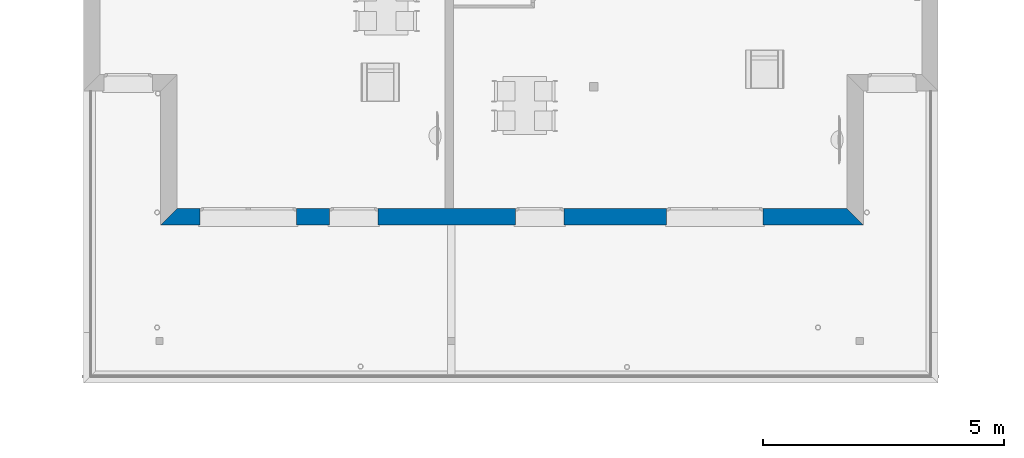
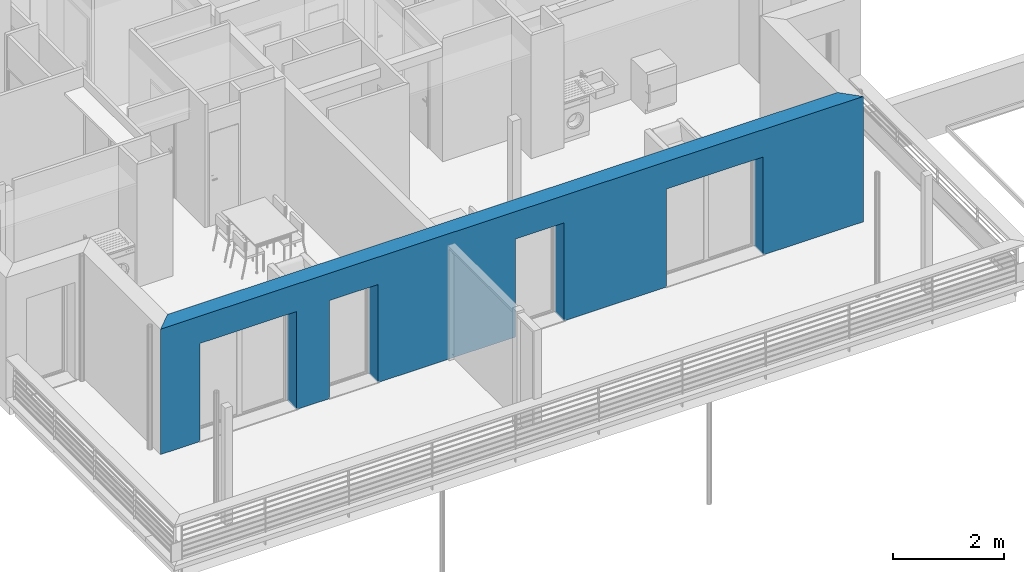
# One storey, part 22 of 171: 1 wall, 4 openings.
"""IFC2X3 building model written with IfcOpenShell, lengths in millimetres."""

import ifcopenshell
import ifcopenshell.guid

model = None  # the IFC model being written
_history = None  # IfcOwnerHistory: only IFC2X3 demands one
_inside = {}  # id of a spatial element -> (the spatial element, [elements in it])
_under = {}  # id of a project, library or spatial element -> (it, [spatial elements below it])
_declared = {}  # id of a project -> (the project, [libraries it declares])
_typed = {}  # id of a type object -> (the type object, [elements of that type])
_made_of = {}  # id of a material, layer set ... -> (it, [elements and type objects made of it])


def new_model(schema):
    """Start an empty IFC model of exactly this schema.

    Asked for "IFC4X3", IfcOpenShell would pick the latest addendum, in which some entities
    have other attributes; the version numbers below select the first issue.
    IFC2X3 requires an IfcOwnerHistory on every rooted entity: one is made here for all.
    """
    global model, _history
    if schema == "IFC4X3":
        model = ifcopenshell.file(schema_version=(4, 3, 0, 0))
    else:
        model = ifcopenshell.file(schema=schema)
    _inside.clear()
    _under.clear()
    _declared.clear()
    _typed.clear()
    _made_of.clear()
    _history = None
    if model.schema == "IFC2X3":
        org = make("IfcOrganization", Name="unknown")
        user = make(
            "IfcPersonAndOrganization",
            ThePerson=make("IfcPerson", FamilyName="unknown"),
            TheOrganization=org,
        )
        app = make(
            "IfcApplication",
            ApplicationDeveloper=org,
            Version="unknown",
            ApplicationFullName="unknown",
            ApplicationIdentifier="unknown",
        )
        _history = make(
            "IfcOwnerHistory",
            OwningUser=user,
            OwningApplication=app,
            ChangeAction="ADDED",
            CreationDate=0,
        )
    return model


def make(cls, **values):
    """One entity of the class cls with the attributes given. An attribute that is None is left unset."""
    return model.create_entity(
        cls, **{name: value for name, value in values.items() if value is not None}
    )


def entity(cls, *values):
    """Any entity or typed value of the class cls, its attributes in the order of the schema. None: left unset."""
    e = model.create_entity(cls)
    for i, value in enumerate(values):
        if value is not None:
            e[i] = value
    return e


def rooted(cls, **values):
    """An entity with a GlobalId (a new one), such as an element, a storey or a relation."""
    return make(cls, GlobalId=ifcopenshell.guid.new(), OwnerHistory=_history, **values)


def si_unit(unit_type, name, prefix=None):
    """IfcSIUnit, for example si_unit("LENGTHUNIT", "METRE", prefix="MILLI")."""
    return make("IfcSIUnit", UnitType=unit_type, Prefix=prefix, Name=name)


def converted_unit(unit_type, name, factor, base, dimensions=None, offset=None):
    """IfcConversionBasedUnit, such as the inch: factor (a typed value) times the base unit."""
    return make(
        "IfcConversionBasedUnit"
        if offset is None
        else "IfcConversionBasedUnitWithOffset",
        ConversionOffset=offset,
        Dimensions=None
        if dimensions is None
        else entity("IfcDimensionalExponents", *dimensions),
        UnitType=unit_type,
        Name=name,
        ConversionFactor=make(
            "IfcMeasureWithUnit", ValueComponent=factor, UnitComponent=base
        ),
    )


def derived_unit(unit_type, elements):
    """IfcDerivedUnit: a product of units, each with its exponent."""
    return make(
        "IfcDerivedUnit",
        Elements=[
            make("IfcDerivedUnitElement", Unit=unit, Exponent=power)
            for unit, power in elements
        ],
        UnitType=unit_type,
    )


def money_unit(currency):
    """IfcMonetaryUnit."""
    return make("IfcMonetaryUnit", Currency=currency)


def assignment(units):
    """IfcUnitAssignment: the units of a project."""
    return None if units is None else make("IfcUnitAssignment", Units=units)


def point(xyz):
    """IfcCartesianPoint."""
    return None if xyz is None else make("IfcCartesianPoint", Coordinates=xyz)


def direction(xyz):
    """IfcDirection."""
    return None if xyz is None else make("IfcDirection", DirectionRatios=xyz)


def frame(location, z_axis=None, x_axis=None):
    """IfcAxis2Placement3D, a coordinate frame: its origin and axes. An axis left out is left unset."""
    return make(
        "IfcAxis2Placement3D",
        Location=point(location),
        Axis=direction(z_axis),
        RefDirection=direction(x_axis),
    )


def origin_with_axes():
    """The frame at (0, 0, 0) with the z axis (0, 0, 1) and the x axis (1, 0, 0) written out."""
    return frame((0.0, 0.0, 0.0), z_axis=(0.0, 0.0, 1.0), x_axis=(1.0, 0.0, 0.0))


def place(relative_to, where):
    """IfcLocalPlacement: puts the frame where relative to a parent placement (None: the world)."""
    return make(
        "IfcLocalPlacement", PlacementRelTo=relative_to, RelativePlacement=where
    )


def context(
    kind, dimensions, precision=None, world=None, true_north=None, identifier=None
):
    """IfcGeometricRepresentationContext, for example the 3D "Model" context."""
    return make(
        "IfcGeometricRepresentationContext",
        ContextIdentifier=identifier,
        ContextType=kind,
        CoordinateSpaceDimension=dimensions,
        Precision=precision,
        WorldCoordinateSystem=world,
        TrueNorth=true_north,
    )


def subcontext(parent, identifier, kind, view, scale=None):
    """IfcGeometricRepresentationSubContext, for example "Body" below "Model"."""
    return make(
        "IfcGeometricRepresentationSubContext",
        ContextIdentifier=identifier,
        ContextType=kind,
        ParentContext=parent,
        TargetScale=scale,
        TargetView=view,
    )


def project(units=None, contexts=None):
    """IfcProject with its units and contexts."""
    return rooted(
        "IfcProject",
        Name="project",
        RepresentationContexts=contexts,
        UnitsInContext=assignment(units),
    )


def spatial(cls, under=None, at=None, **own):
    """A site, building, storey or space (cls), placed at a placement, below another one or the project."""
    s = rooted(cls, ObjectPlacement=at, **own)
    if under is not None:
        _under.setdefault(under.id(), (under, []))[1].append(s)
    return s


def polyline(points):
    """IfcPolyline through the points."""
    return make("IfcPolyline", Points=[point(p) for p in points])


def outline(outer, holes=None, kind="AREA"):
    """IfcArbitraryClosedProfileDef: a profile drawn as a closed curve; with holes, ...WithVoids."""
    if holes is None:
        return make("IfcArbitraryClosedProfileDef", ProfileType=kind, OuterCurve=outer)
    return make(
        "IfcArbitraryProfileDefWithVoids",
        ProfileType=kind,
        OuterCurve=outer,
        InnerCurves=holes,
    )


def extrude(swept, where, along, depth):
    """IfcExtrudedAreaSolid: the profile swept, set in the frame where, extruded along a direction by depth."""
    return make(
        "IfcExtrudedAreaSolid",
        SweptArea=swept,
        Position=where,
        ExtrudedDirection=direction(along),
        Depth=depth,
    )


def faces_of(points, faces, orient=None, outer=None):
    """IfcFace entities. A face is a list of loops; a loop is a list of indices into points, from 0.

    orient and outer hold one flag for each loop. By default every Orientation is true, the
    first loop of a face is its IfcFaceOuterBound and the others are IfcFaceBound.
    """
    made = []
    for i, loops in enumerate(faces):
        bounds = []
        for j, loop in enumerate(loops):
            is_outer = j == 0 if outer is None else outer[i][j]
            bounds.append(
                make(
                    "IfcFaceOuterBound" if is_outer else "IfcFaceBound",
                    Bound=make("IfcPolyLoop", Polygon=[points[k] for k in loop]),
                    Orientation=True if orient is None else orient[i][j],
                )
            )
        made.append(make("IfcFace", Bounds=bounds))
    return made


def faceted_brep(points, faces, orient=None, outer=None, voids=None):
    """IfcFacetedBrep: a solid bounded by flat faces; with voids (closed shells), ...WithVoids."""
    shared = [point(p) for p in points]
    hull = make("IfcClosedShell", CfsFaces=faces_of(shared, faces, orient, outer))
    if voids is None:
        return make("IfcFacetedBrep", Outer=hull)
    return make(
        "IfcFacetedBrepWithVoids",
        Outer=hull,
        Voids=[
            make(cls, CfsFaces=faces_of(shared, fs, o, b)) for cls, fs, o, b in voids
        ],
    )


def shape(context_of_items, identifier, shape_type, items):
    """IfcShapeRepresentation: the items that make up one representation, for example the "Body"."""
    return make(
        "IfcShapeRepresentation",
        ContextOfItems=context_of_items,
        RepresentationIdentifier=identifier,
        RepresentationType=shape_type,
        Items=items,
    )


def material(Name=None, Category=None):
    """IfcMaterial."""
    return make("IfcMaterial", Name=Name, Category=Category)


def layer(
    of_material, thickness, ventilated=None, Name=None, Category=None, Priority=None
):
    """IfcMaterialLayer: one layer of a wall or slab, of a material (None: an air gap)."""
    return make(
        "IfcMaterialLayer",
        Material=of_material,
        LayerThickness=thickness,
        IsVentilated=ventilated,
        Name=Name,
        Category=Category,
        Priority=Priority,
    )


def layer_set(layers, Name=None):
    """IfcMaterialLayerSet."""
    return make("IfcMaterialLayerSet", MaterialLayers=layers, LayerSetName=Name)


def layer_usage(for_layer_set, set_direction, sense, offset, extent=None):
    """IfcMaterialLayerSetUsage: how a layer set lies in its element."""
    return make(
        "IfcMaterialLayerSetUsage",
        ForLayerSet=for_layer_set,
        LayerSetDirection=set_direction,
        DirectionSense=sense,
        OffsetFromReferenceLine=offset,
        ReferenceExtent=extent,
    )


def made_of(thing, what):
    """Note that an element or type object is made of a material, layer set ...; save() writes the relation."""
    if what is not None:
        _made_of.setdefault(what.id(), (what, []))[1].append(thing)
    return thing


def type_object(cls, material=None, **own):
    """A type object (cls), such as IfcWallType, which elements share."""
    return made_of(rooted(cls, **own), material)


def element(
    cls,
    number,
    at=None,
    inside=None,
    cuts=None,
    type_object=None,
    material=None,
    context=None,
    identifier="Body",
    shape_type=None,
    held_by="IfcProductDefinitionShape",
    body=None,
    shapes=None,
    **own,
):
    """One element of the class cls, such as IfcWall. Its Tag is "e" and its number.

    at: its placement. inside: the storey or other place that contains it. cuts: it is an
    opening in that element (IfcRelVoidsElement). A single representation is given by context,
    identifier, shape_type and body (its items); several are given by shapes. held_by: the class
    of the entity that holds the representations. save() writes the other relations.
    """
    e = rooted(cls, Tag="e%d" % number, ObjectPlacement=at, **own)
    if body is not None:
        shapes = [shape(context, identifier, shape_type, body)]
    if shapes is not None:
        e.Representation = make(held_by, Representations=shapes)
    if inside is not None:
        _inside.setdefault(inside.id(), (inside, []))[1].append(e)
    if cuts is not None:
        rooted(
            "IfcRelVoidsElement", RelatingBuildingElement=cuts, RelatedOpeningElement=e
        )
    if type_object is not None:
        _typed.setdefault(type_object.id(), (type_object, []))[1].append(e)
    return made_of(e, material)


def aggregate(whole, parts):
    """IfcRelAggregates: a whole, such as a stair, and the parts it consists of."""
    return rooted("IfcRelAggregates", RelatingObject=whole, RelatedObjects=parts)


def save(model, path):
    """Write the relations noted so far, then the file.

    IfcRelAggregates (storeys below a building ...), IfcRelContainedInSpatialStructure (elements
    in a storey), IfcRelDefinesByType, IfcRelAssociatesMaterial and IfcRelDeclares: one each for
    every whole, place, type object, material and project.
    """
    for whole, parts in _under.values():
        aggregate(whole, parts)
    for where, things in _inside.values():
        rooted(
            "IfcRelContainedInSpatialStructure",
            RelatedElements=things,
            RelatingStructure=where,
        )
    for kind, things in _typed.values():
        rooted("IfcRelDefinesByType", RelatedObjects=things, RelatingType=kind)
    for what, things in _made_of.values():
        rooted("IfcRelAssociatesMaterial", RelatedObjects=things, RelatingMaterial=what)
    for by, libraries in _declared.values():
        rooted("IfcRelDeclares", RelatingContext=by, RelatedDefinitions=libraries)
    model.write(path)


model = new_model("IFC2X3")

# Units and contexts
model_context = context("Model", 3, precision=0.01, world=origin_with_axes(), true_north=direction((0.0, 1.0)))
body_context = subcontext(model_context, "Body", "Model", "MODEL_VIEW")
ifc_project = project(units=[si_unit("LENGTHUNIT", "METRE", prefix="MILLI"), si_unit("AREAUNIT", "SQUARE_METRE"), si_unit("VOLUMEUNIT", "CUBIC_METRE"), converted_unit("PLANEANGLEUNIT", "DEGREE", entity("IfcPlaneAngleMeasure", 0.0174532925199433), si_unit("PLANEANGLEUNIT", "RADIAN"), dimensions=[0, 0, 0, 0, 0, 0, 0]), money_unit("USD"), converted_unit("TIMEUNIT", "Year", entity("IfcTimeMeasure", 31557600.0), si_unit("TIMEUNIT", "SECOND"), dimensions=[0, 0, 1, 0, 0, 0, 0]), si_unit("MASSUNIT", "GRAM", prefix="KILO"), si_unit("THERMODYNAMICTEMPERATUREUNIT", "DEGREE_CELSIUS"), si_unit("LUMINOUSINTENSITYUNIT", "LUMEN"), si_unit("ENERGYUNIT", "JOULE", prefix="MEGA"), derived_unit("THERMALCONDUCTANCEUNIT", [(si_unit("POWERUNIT", "WATT"), 1), (si_unit("LENGTHUNIT", "METRE"), -1), (si_unit("THERMODYNAMICTEMPERATUREUNIT", "KELVIN"), -1)]), derived_unit("SPECIFICHEATCAPACITYUNIT", [(si_unit("ENERGYUNIT", "JOULE"), 1), (si_unit("MASSUNIT", "GRAM", prefix="KILO"), -1), (si_unit("THERMODYNAMICTEMPERATUREUNIT", "KELVIN"), -1)]), derived_unit("MASSDENSITYUNIT", [(si_unit("MASSUNIT", "GRAM", prefix="KILO"), 1), (si_unit("VOLUMEUNIT", "CUBIC_METRE"), -1)])], contexts=[model_context])

# Site, building, storey
site_placement = place(None, origin_with_axes())
site = spatial("IfcSite", under=ifc_project, at=site_placement, Name="Site", CompositionType="ELEMENT")
building_placement = place(site_placement, origin_with_axes())
building = spatial("IfcBuilding", under=site, at=building_placement, Name="Bâtiment", CompositionType="ELEMENT")
storey_placement = place(building_placement, frame((0.0, 0.0, 3000.0), z_axis=(0.0, 0.0, 1.0), x_axis=(1.0, 0.0, 0.0)))
storey = spatial("IfcBuildingStorey", under=building, at=storey_placement, Name="rdc", CompositionType="ELEMENT", Elevation=3000.0)

# Wall, openings
ifc_material_1 = material(Name="Parpaing 312445824")
ifc_layer_1 = layer(ifc_material_1, 180.0, ventilated="UNKNOWN")
ifc_material_2 = material(Name="Isolant styromousse 301821074")
ifc_layer_2 = layer(ifc_material_2, 160.0, ventilated="UNKNOWN")
ifc_layer_set = layer_set([ifc_layer_1, ifc_layer_2], Name="isol int 18+16 0018356637")
ifc_layer_usage = layer_usage(ifc_layer_set, "AXIS2", "POSITIVE", 0.0)
wall_type = type_object("IfcWallType", Name="isol int 18+16 0018356637 340", PredefinedType="NOTDEFINED")
wall_placement = place(storey_placement, frame((2218234.233338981, -657818.3230769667, 0.0), z_axis=(0.0, 0.0, 1.0), x_axis=(1.0, 0.0, 0.0)))
wall = element("IfcWallStandardCase", 1, at=wall_placement, inside=storey, type_object=wall_type, material=ifc_layer_usage, Name="Mur-142", context=body_context, shape_type="SweptSolid", body=[
    extrude(outline(polyline([(-1.13686837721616e-10, 0.0), (14572.4247596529, 0.0), (14232.42475965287, 340.0000000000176), (339.9999999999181, 340.0000000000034), (-1.13686837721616e-10, 0.0)])), origin_with_axes(), (0.0, 0.0, 1.0), 2750.0),
])
opening_1_placement = place(wall_placement, frame((11494.55984898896, 0.0, 0.0), z_axis=(0.0, 0.0, 1.0), x_axis=(1.0, 0.0, 0.0)))
element("IfcOpeningElement", 2, at=opening_1_placement, cuts=wall, Name="Fen-207", context=body_context, shape_type="Brep", body=[
    faceted_brep([(-1000.0, 341.0000000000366, 2150.0), (1000.0, 341.0000000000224, 2150.0), (1000.0, 341.0000000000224, 0.0), (-1000.0, 341.0000000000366, 0.0), (-1000.0, 529.9999999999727, 2150.0), (1000.0, 529.9999999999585, 2150.0), (1000.0, 289.9999999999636, 2150.0), (1000.0, 289.9999999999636, 0.0), (1000.0, -1.000000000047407, 0.0), (-1000.0, -1.000000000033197, 0.0), (-1000.0, 289.9999999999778, 0.0), (-1000.0, 289.9999999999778, 2150.0), (-1000.0, 279.9999999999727, 2150.0), (-1000.0, 279.9999999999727, 2400.0), (-1000.0, 529.9999999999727, 2400.0), (1000.0, 529.9999999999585, 2400.0), (1000.0, 279.9999999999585, 2400.0), (1000.0, 279.9999999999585, 2150.0), (1000.0, -1.000000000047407, 2150.0), (-1000.0, -1.000000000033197, 2150.0)], [[[0, 1, 2, 3]], [[1, 0, 4, 5]], [[1, 6, 7, 2]], [[7, 8, 9, 10, 3, 2]], [[11, 0, 3, 10]], [[0, 11, 12, 13, 14, 4]], [[15, 5, 4, 14]], [[6, 1, 5, 15, 16, 17]], [[6, 17, 18, 8, 7]], [[19, 9, 8, 18]], [[12, 11, 10, 9, 19]], [[12, 17, 16, 13]], [[16, 15, 14, 13]], [[17, 12, 19, 18]]]),
])
opening_2_placement = place(wall_placement, frame((1819.125619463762, 0.0, 0.0), z_axis=(0.0, 0.0, 1.0), x_axis=(1.0, 0.0, 0.0)))
element("IfcOpeningElement", 3, at=opening_2_placement, cuts=wall, Name="Fen-207", context=body_context, shape_type="Brep", body=[
    faceted_brep([(-1000.0, 341.000000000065, 2150.0), (1000.0, 341.000000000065, 2150.0), (1000.0, 341.000000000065, 0.0), (-1000.0, 341.000000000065, 0.0), (-1000.0, 530.0000000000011, 2150.0), (1000.0, 530.0000000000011, 2150.0), (1000.0, 290.0000000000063, 2150.0), (1000.0, 290.0000000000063, 0.0), (1000.0, -1.000000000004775, 0.0), (-1000.0, -1.000000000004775, 0.0), (-1000.0, 290.0000000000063, 0.0), (-1000.0, 290.0000000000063, 2150.0), (-1000.0, 280.0000000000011, 2150.0), (-1000.0, 280.0000000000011, 2400.0), (-1000.0, 530.0000000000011, 2400.0), (1000.0, 530.0000000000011, 2400.0), (1000.0, 280.0000000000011, 2400.0), (1000.0, 280.0000000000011, 2150.0), (1000.0, -1.000000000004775, 2150.0), (-1000.0, -1.000000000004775, 2150.0)], [[[0, 1, 2, 3]], [[1, 0, 4, 5]], [[1, 6, 7, 2]], [[7, 8, 9, 10, 3, 2]], [[11, 0, 3, 10]], [[0, 11, 12, 13, 14, 4]], [[4, 14, 15, 5]], [[6, 1, 5, 15, 16, 17]], [[6, 17, 18, 8, 7]], [[19, 9, 8, 18]], [[12, 11, 10, 9, 19]], [[12, 17, 16, 13]], [[14, 13, 16, 15]], [[17, 12, 19, 18]]]),
])
opening_3_placement = place(wall_placement, frame((4005.859536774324, 0.0, 0.0), z_axis=(0.0, 0.0, 1.0), x_axis=(1.0, 0.0, 0.0)))
element("IfcOpeningElement", 4, at=opening_3_placement, cuts=wall, Name="Fen-208", context=body_context, shape_type="Brep", body=[
    faceted_brep([(-500.0, 341.000000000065, 2150.0), (500.0, 341.0000000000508, 2150.0), (500.0, 341.0000000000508, 0.0), (-500.0, 341.000000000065, 0.0), (-500.0, 530.0000000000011, 2150.0), (500.0, 529.9999999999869, 2150.0), (500.0, 289.999999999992, 2150.0), (500.0, 289.999999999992, 0.0), (500.0, -1.000000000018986, 0.0), (-500.0, -1.000000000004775, 0.0), (-500.0, 290.0000000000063, 0.0), (-500.0, 290.0000000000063, 2150.0), (-500.0, 280.0000000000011, 2150.0), (-500.0, 280.0000000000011, 2400.0), (-500.0, 530.0000000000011, 2400.0), (500.0, 529.9999999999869, 2400.0), (500.0, 279.9999999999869, 2400.0), (500.0, 279.9999999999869, 2150.0), (500.0, -1.000000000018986, 2150.0), (-500.0, -1.000000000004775, 2150.0)], [[[0, 1, 2, 3]], [[1, 0, 4, 5]], [[1, 6, 7, 2]], [[7, 8, 9, 10, 3, 2]], [[11, 0, 3, 10]], [[0, 11, 12, 13, 14, 4]], [[15, 5, 4, 14]], [[6, 1, 5, 15, 16, 17]], [[6, 17, 18, 8, 7]], [[19, 9, 8, 18]], [[12, 11, 10, 9, 19]], [[12, 17, 16, 13]], [[16, 15, 14, 13]], [[17, 12, 19, 18]]]),
])
opening_4_placement = place(wall_placement, frame((7861.100702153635, 0.0, 0.0), z_axis=(0.0, 0.0, 1.0), x_axis=(1.0, 0.0, 0.0)))
element("IfcOpeningElement", 5, at=opening_4_placement, cuts=wall, Name="Fen-208", context=body_context, shape_type="Brep", body=[
    faceted_brep([(-500.0, 341.0000000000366, 2150.0), (500.0, 341.0000000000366, 2150.0), (500.0, 341.0000000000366, 0.0), (-500.0, 341.0000000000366, 0.0), (-500.0, 529.9999999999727, 2150.0), (500.0, 529.9999999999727, 2150.0), (500.0, 289.9999999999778, 2150.0), (500.0, 289.9999999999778, 0.0), (500.0, -1.000000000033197, 0.0), (-500.0, -1.000000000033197, 0.0), (-500.0, 289.9999999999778, 0.0), (-500.0, 289.9999999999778, 2150.0), (-500.0, 279.9999999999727, 2150.0), (-500.0, 279.9999999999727, 2400.0), (-500.0, 529.9999999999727, 2400.0), (500.0, 529.9999999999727, 2400.0), (500.0, 279.9999999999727, 2400.0), (500.0, 279.9999999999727, 2150.0), (500.0, -1.000000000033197, 2150.0), (-500.0, -1.000000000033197, 2150.0)], [[[0, 1, 2, 3]], [[1, 0, 4, 5]], [[1, 6, 7, 2]], [[7, 8, 9, 10, 3, 2]], [[11, 0, 3, 10]], [[0, 11, 12, 13, 14, 4]], [[15, 5, 4, 14]], [[6, 1, 5, 15, 16, 17]], [[6, 17, 18, 8, 7]], [[19, 9, 8, 18]], [[12, 11, 10, 9, 19]], [[12, 17, 16, 13]], [[16, 15, 14, 13]], [[17, 12, 19, 18]]]),
])

save(model, "model.ifc")
